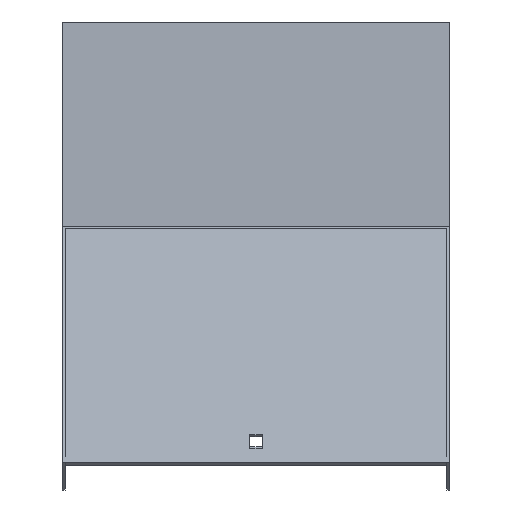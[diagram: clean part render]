
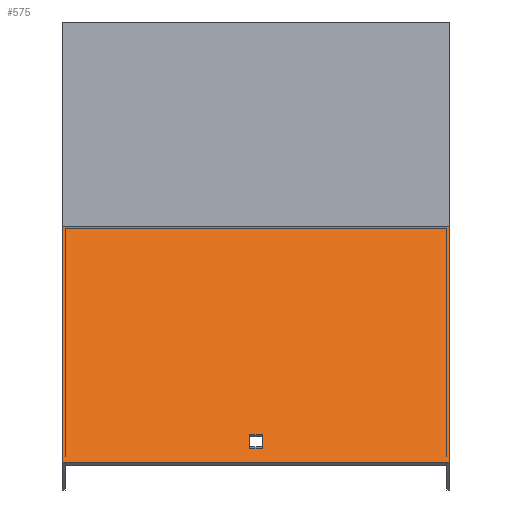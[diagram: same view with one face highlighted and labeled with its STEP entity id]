
A CAD part, top view. The second image highlights one B-rep face of the part: STEP entity #575.
In plain terms, the highlighted planar face has unit normal (0, 0.707, 0.707).
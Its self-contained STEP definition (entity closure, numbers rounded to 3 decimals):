
#11 = LINE ( 'NONE', #274, #334 ) ;
#23 = ORIENTED_EDGE ( 'NONE', *, *, #258, .T. ) ;
#25 = LINE ( 'NONE', #555, #164 ) ;
#43 = DIRECTION ( 'NONE',  ( 0., -0.707, -0.707 ) ) ;
#63 = DIRECTION ( 'NONE',  ( 0., -0.707, 0.707 ) ) ;
#64 = VECTOR ( 'NONE', #63, 1000. ) ;
#85 = AXIS2_PLACEMENT_3D ( 'NONE', #539, #43, #228 ) ;
#90 = CARTESIAN_POINT ( 'NONE',  ( -101.5, -211.953, 559.984 ) ) ;
#107 = FACE_BOUND ( 'NONE', #478, .T. ) ;
#113 = CARTESIAN_POINT ( 'NONE',  ( 3.25, -197.104, 545.134 ) ) ;
#115 = EDGE_CURVE ( 'NONE', #213, #502, #193, .T. ) ;
#117 = ORIENTED_EDGE ( 'NONE', *, *, #503, .T. ) ;
#142 = LINE ( 'NONE', #407, #545 ) ;
#146 = DIRECTION ( 'NONE',  ( 0., -0.707, 0.707 ) ) ;
#163 = VERTEX_POINT ( 'NONE', #113 ) ;
#164 = VECTOR ( 'NONE', #543, 1000. ) ;
#168 = VERTEX_POINT ( 'NONE', #511 ) ;
#171 = VECTOR ( 'NONE', #385, 1000. ) ;
#176 = LINE ( 'NONE', #250, #507 ) ;
#190 = CARTESIAN_POINT ( 'NONE',  ( -101.5, -90.33, 438.361 ) ) ;
#193 = LINE ( 'NONE', #190, #171 ) ;
#205 = LINE ( 'NONE', #647, #64 ) ;
#213 = VERTEX_POINT ( 'NONE', #498 ) ;
#221 = LINE ( 'NONE', #523, #590 ) ;
#226 = EDGE_LOOP ( 'NONE', ( #690, #605, #376, #809 ) ) ;
#228 = DIRECTION ( 'NONE',  ( 0., 0.707, -0.707 ) ) ;
#236 = DIRECTION ( 'NONE',  ( 0., 0.707, -0.707 ) ) ;
#249 = EDGE_CURVE ( 'NONE', #615, #502, #176, .T. ) ;
#250 = CARTESIAN_POINT ( 'NONE',  ( 101.5, -211.953, 559.984 ) ) ;
#258 = EDGE_CURVE ( 'NONE', #168, #802, #494, .T. ) ;
#274 = CARTESIAN_POINT ( 'NONE',  ( 101.5, -87.517, 435.548 ) ) ;
#279 = EDGE_CURVE ( 'NONE', #348, #615, #205, .T. ) ;
#334 = VECTOR ( 'NONE', #722, 1000. ) ;
#348 = VERTEX_POINT ( 'NONE', #651 ) ;
#363 = VECTOR ( 'NONE', #236, 1000. ) ;
#376 = ORIENTED_EDGE ( 'NONE', *, *, #279, .F. ) ;
#385 = DIRECTION ( 'NONE',  ( 0., -0.707, 0.707 ) ) ;
#399 = DIRECTION ( 'NONE',  ( 1., 0., 0. ) ) ;
#407 = CARTESIAN_POINT ( 'NONE',  ( 3.25, -90.33, 438.361 ) ) ;
#412 = VERTEX_POINT ( 'NONE', #792 ) ;
#417 = ORIENTED_EDGE ( 'NONE', *, *, #467, .T. ) ;
#467 = EDGE_CURVE ( 'NONE', #802, #163, #221, .T. ) ;
#478 = EDGE_LOOP ( 'NONE', ( #417, #704, #117, #23 ) ) ;
#494 = LINE ( 'NONE', #692, #363 ) ;
#498 = CARTESIAN_POINT ( 'NONE',  ( -101.5, -87.517, 435.548 ) ) ;
#501 = DIRECTION ( 'NONE',  ( -1., 0., 0. ) ) ;
#502 = VERTEX_POINT ( 'NONE', #90 ) ;
#503 = EDGE_CURVE ( 'NONE', #412, #168, #25, .T. ) ;
#507 = VECTOR ( 'NONE', #501, 1000. ) ;
#511 = CARTESIAN_POINT ( 'NONE',  ( -3.25, -203.468, 551.498 ) ) ;
#523 = CARTESIAN_POINT ( 'NONE',  ( 101.5, -197.104, 545.134 ) ) ;
#539 = CARTESIAN_POINT ( 'NONE',  ( 101.5, -90.33, 438.361 ) ) ;
#543 = DIRECTION ( 'NONE',  ( -1., 0., 0. ) ) ;
#545 = VECTOR ( 'NONE', #146, 1000. ) ;
#555 = CARTESIAN_POINT ( 'NONE',  ( 101.5, -203.468, 551.498 ) ) ;
#560 = CARTESIAN_POINT ( 'NONE',  ( 101.5, -211.953, 559.984 ) ) ;
#575 = ADVANCED_FACE ( 'NONE', ( #107, #746 ), #821, .F. ) ;
#590 = VECTOR ( 'NONE', #399, 1000. ) ;
#605 = ORIENTED_EDGE ( 'NONE', *, *, #249, .F. ) ;
#615 = VERTEX_POINT ( 'NONE', #560 ) ;
#647 = CARTESIAN_POINT ( 'NONE',  ( 101.5, -90.33, 438.361 ) ) ;
#651 = CARTESIAN_POINT ( 'NONE',  ( 101.5, -87.517, 435.548 ) ) ;
#690 = ORIENTED_EDGE ( 'NONE', *, *, #115, .T. ) ;
#692 = CARTESIAN_POINT ( 'NONE',  ( -3.25, -90.33, 438.361 ) ) ;
#704 = ORIENTED_EDGE ( 'NONE', *, *, #764, .T. ) ;
#722 = DIRECTION ( 'NONE',  ( -1., 0., 0. ) ) ;
#746 = FACE_OUTER_BOUND ( 'NONE', #226, .T. ) ;
#764 = EDGE_CURVE ( 'NONE', #163, #412, #142, .T. ) ;
#792 = CARTESIAN_POINT ( 'NONE',  ( 3.25, -203.468, 551.498 ) ) ;
#800 = CARTESIAN_POINT ( 'NONE',  ( -3.25, -197.104, 545.134 ) ) ;
#802 = VERTEX_POINT ( 'NONE', #800 ) ;
#808 = EDGE_CURVE ( 'NONE', #348, #213, #11, .T. ) ;
#809 = ORIENTED_EDGE ( 'NONE', *, *, #808, .T. ) ;
#821 = PLANE ( 'NONE',  #85 ) ;
